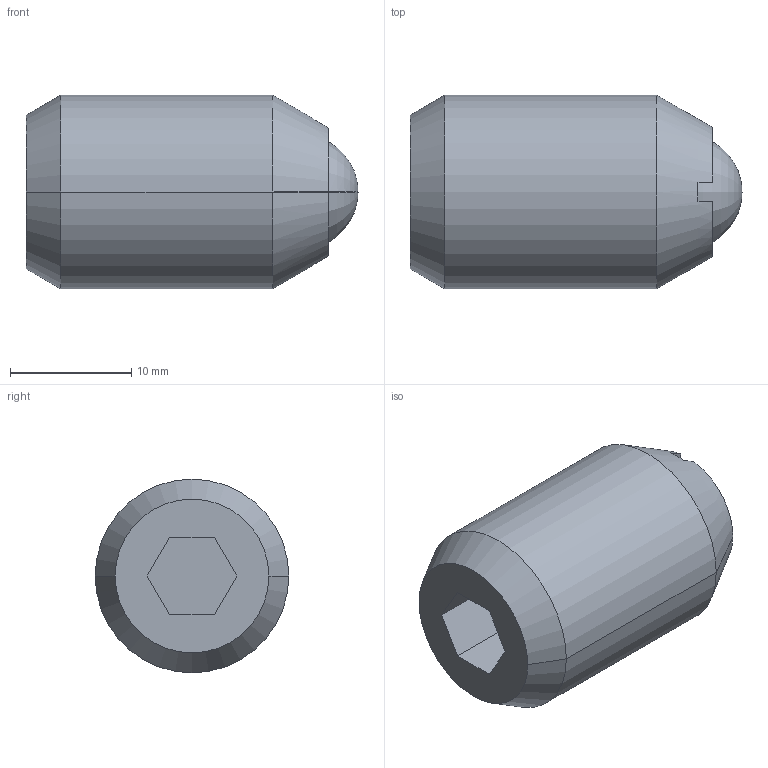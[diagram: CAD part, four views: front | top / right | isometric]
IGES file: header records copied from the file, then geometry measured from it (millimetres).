
Start section:  PTC IGES file: phb62-3d.igs
Global section: file name: phb62-3d.igs; native system: Pro/ENGINEER by Parametric Technology Corporation; preprocessor: 2002350; author: chant; organization: Unknown; date: 061025.164110; units: inch
Bounding box: 27.43 x 16 x 16 mm (x, y, z)
Surface area: 2164.8 mm2 (no closed solid volume)
Topology: 0 solids, 0 shells, 27 faces, 191 edges, 241 vertices
Faces by surface type: bspline 15, revolution 12
